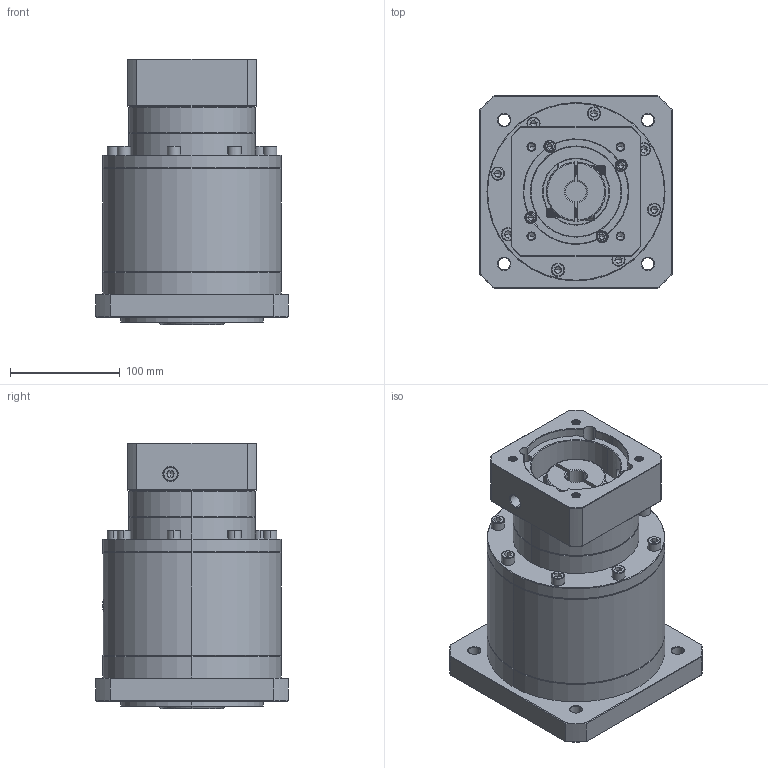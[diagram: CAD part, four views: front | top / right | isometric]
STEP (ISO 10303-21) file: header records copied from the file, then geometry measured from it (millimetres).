
FILE_DESCRIPTION (( 'STEP AP214' ), '1' );
FILE_NAME ('ZF160A-K35-L3-P2-19-95-115-M8.step', '2023-09-03T07:59:01', ( '' ), ( '' ), 'SwSTEP 2.0', 'SolidWorks 2016', '' );
FILE_SCHEMA (( 'AUTOMOTIVE_DESIGN' ));
Length unit declared in the file: millimetre
Products named in the file (1): ZF160A-K35-L3-P2-19-95-115-M8
Bounding box: 175 x 175 x 241.7 mm (x, y, z)
Volume: 4053466.2 mm3; surface area: 275439.7 mm2
Topology: 6 solids, 6 shells, 2390 faces, 6328 edges, 4060 vertices
Faces by surface type: plane 1112, cylinder 457, bspline 418, cone 367, torus 36
Entity records: 126105 total; most frequent: CARTESIAN_POINT 45628, ORIENTED_EDGE 12552, DIRECTION 9565, EDGE_CURVE 6276, VERTEX_POINT 4060, LINE 3331, VECTOR 3331, AXIS2_PLACEMENT_3D 3117
